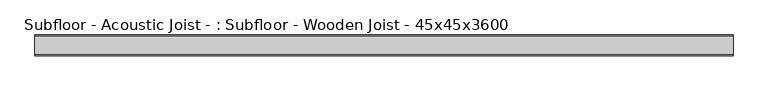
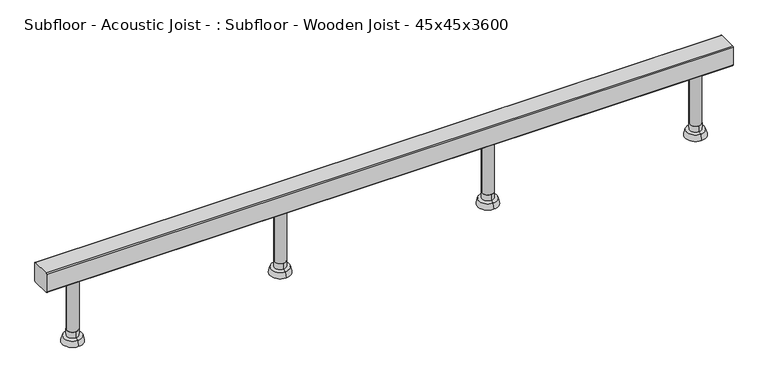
"""IFC4 building model written with IfcOpenShell, lengths in millimetres: beam geometry, Subfloor - Acoustic Joist - : Subfloor - Wooden Joist - 45x45x3600."""

from ifc_helpers import new_model, si_unit, point, frame, frame_2d, origin, place, context, project, spatial, polyline, circle_curve, trimmed, segment, composite_curve, outline, extrude, source, transform, mapped, element, save
from ifc_brep_helpers import plane_surface, cylinder_surface, revolved_surface, advanced_brep


def subfloor_acoustic_joist_subfloor_wooden_joist_45x45x3600_03734fa0(model_context):
    return source(origin(), model_context, "Body", "SolidModel", [
        extrude(outline(composite_curve([segment(trimmed(circle_curve(frame_2d((229.1666667, 0.0)), 12.5043167), [point((216.6623499, 0.0))], [point((241.6709834, 0.0))], False, "CARTESIAN"), True, "CONTINUOUS"), segment(trimmed(circle_curve(frame_2d((229.1666667, 0.0)), 12.5043167), [point((241.6709834, 0.0))], [point((216.6623499, 0.0))], False, "CARTESIAN"), True, "CONTINUOUS")], self_intersect=False)), frame((0.0, 0.0, -143.9999995), z_axis=(0.0, 0.0, 1.0), x_axis=(1.0, 0.0, 0.0)), (0.0, 0.0, 1.0), 121.4999995),
        advanced_brep(
        [(229.1666667, 0.0, -172.5), (229.1666667, -22.5, -172.5), (229.1666667, 22.5, -172.5), (229.1666667, 12.5043167, -143.9999995), (229.1666667, -12.5043167, -143.9999995), (229.1666667, 0.0, -143.9999995), (229.1666667, 19.5414562, -159.856555), (229.1666667, -19.5414562, -159.856555), (229.1666667, -12.5043167, -158.5618465), (229.1666667, 12.5043167, -158.5618465)],
        [
            (0, 1),
            (1, 2, circle_curve(frame((229.1666667, 0.0, -172.5), z_axis=(0.0, 0.0, -1.0), x_axis=(0.0, -1.0, 0.0)), 22.5)),
            (2, 0),
            (2, 1, circle_curve(frame((229.1666667, 0.0, -172.5), z_axis=(0.0, 0.0, -1.0), x_axis=(0.0, -1.0, 0.0)), 22.5)),
            (3, 4, circle_curve(frame((229.1666667, 0.0, -143.9999995), z_axis=(0.0, 0.0, 1.0), x_axis=(0.0, -1.0, 0.0)), 12.5043167)),
            (4, 5),
            (5, 3),
            (4, 3, circle_curve(frame((229.1666667, 0.0, -143.9999995), z_axis=(0.0, 0.0, 1.0), x_axis=(0.0, -1.0, 0.0)), 12.5043167)),
            (6, 7, circle_curve(frame((229.1666667, 0.0, -159.856555), z_axis=(0.0, 0.0, 1.0), x_axis=(0.0, -1.0, 0.0)), 19.5414562)),
            (7, 8),
            (8, 9, circle_curve(frame((229.1666667, 0.0, -158.5618465), z_axis=(0.0, 0.0, -1.0), x_axis=(0.0, -1.0, 0.0)), 12.5043167)),
            (9, 6),
            (7, 6, circle_curve(frame((229.1666667, 0.0, -159.856555), z_axis=(0.0, 0.0, 1.0), x_axis=(0.0, -1.0, 0.0)), 19.5414562)),
            (9, 8, circle_curve(frame((229.1666667, 0.0, -158.5618465), z_axis=(0.0, 0.0, -1.0), x_axis=(0.0, -1.0, 0.0)), 12.5043167)),
            (8, 4),
            (3, 9),
            (1, 7),
            (6, 2),
        ],
        [
            plane_surface(frame((229.1666667, 0.0, -172.5), z_axis=(0.0, 0.0, -1.0), x_axis=(0.0, -1.0, 0.0))),
            plane_surface(frame((229.1666667, 0.0, -143.9999995), z_axis=(0.0, 0.0, 1.0), x_axis=(0.0, -1.0, 0.0))),
            revolved_surface(polyline([(229.1666667, -12.5043167, -158.5618465), (229.1666667, -19.5414562, -159.856555)]), (229.1666667, 0.0, -178.1427452), (0.0, 0.0, -1.0)),
            cylinder_surface(frame((229.1666667, 0.0, -178.1427452), z_axis=(0.0, 0.0, -1.0), x_axis=(0.0, -1.0, 0.0)), 12.5043167),
            revolved_surface(polyline([(229.1666667, -19.5414562, -159.856555), (229.1666667, -22.5, -172.5)]), (229.1666667, 0.0, -178.1427452), (0.0, 0.0, -1.0)),
        ],
        [
            (0, [[1, 2, 3]]),
            (0, [[-3, 4, -1]]),
            (1, [[5, 6, 7]]),
            (1, [[8, -7, -6]]),
            (2, [[9, 10, 11, 12]]),
            (2, [[13, -12, 14, -10]]),
            (3, [[-11, 15, -5, 16]]),
            (3, [[-14, -16, -8, -15]]),
            (4, [[-2, 17, -9, 18]]),
            (4, [[-4, -18, -13, -17]]),
        ],
    ),
        extrude(outline(composite_curve([segment(trimmed(circle_curve(frame_2d((-229.1666667, 0.0)), 12.5043167), [point((-241.6709834, 0.0))], [point((-216.6623499, 0.0))], False, "CARTESIAN"), True, "CONTINUOUS"), segment(trimmed(circle_curve(frame_2d((-229.1666667, 0.0)), 12.5043167), [point((-216.6623499, 0.0))], [point((-241.6709834, 0.0))], False, "CARTESIAN"), True, "CONTINUOUS")], self_intersect=False)), frame((0.0, 0.0, -143.9999995), z_axis=(0.0, 0.0, 1.0), x_axis=(1.0, 0.0, 0.0)), (0.0, 0.0, 1.0), 121.4999995),
        advanced_brep(
        [(-229.1666667, 0.0, -172.5), (-229.1666667, -22.5, -172.5), (-229.1666667, 22.5, -172.5), (-229.1666667, 12.5043167, -143.9999995), (-229.1666667, -12.5043167, -143.9999995), (-229.1666667, 0.0, -143.9999995), (-229.1666667, 19.5414562, -159.856555), (-229.1666667, -19.5414562, -159.856555), (-229.1666667, -12.5043167, -158.5618465), (-229.1666667, 12.5043167, -158.5618465)],
        [
            (0, 1),
            (1, 2, circle_curve(frame((-229.1666667, 0.0, -172.5), z_axis=(0.0, 0.0, -1.0), x_axis=(0.0, -1.0, 0.0)), 22.5)),
            (2, 0),
            (2, 1, circle_curve(frame((-229.1666667, 0.0, -172.5), z_axis=(0.0, 0.0, -1.0), x_axis=(0.0, -1.0, 0.0)), 22.5)),
            (3, 4, circle_curve(frame((-229.1666667, 0.0, -143.9999995), z_axis=(0.0, 0.0, 1.0), x_axis=(0.0, -1.0, 0.0)), 12.5043167)),
            (4, 5),
            (5, 3),
            (4, 3, circle_curve(frame((-229.1666667, 0.0, -143.9999995), z_axis=(0.0, 0.0, 1.0), x_axis=(0.0, -1.0, 0.0)), 12.5043167)),
            (6, 7, circle_curve(frame((-229.1666667, 0.0, -159.856555), z_axis=(0.0, 0.0, 1.0), x_axis=(0.0, -1.0, 0.0)), 19.5414562)),
            (7, 8),
            (8, 9, circle_curve(frame((-229.1666667, 0.0, -158.5618465), z_axis=(0.0, 0.0, -1.0), x_axis=(0.0, -1.0, 0.0)), 12.5043167)),
            (9, 6),
            (7, 6, circle_curve(frame((-229.1666667, 0.0, -159.856555), z_axis=(0.0, 0.0, 1.0), x_axis=(0.0, -1.0, 0.0)), 19.5414562)),
            (9, 8, circle_curve(frame((-229.1666667, 0.0, -158.5618465), z_axis=(0.0, 0.0, -1.0), x_axis=(0.0, -1.0, 0.0)), 12.5043167)),
            (8, 4),
            (3, 9),
            (1, 7),
            (6, 2),
        ],
        [
            plane_surface(frame((-229.1666667, 0.0, -172.5), z_axis=(0.0, 0.0, -1.0), x_axis=(0.0, -1.0, 0.0))),
            plane_surface(frame((-229.1666667, 0.0, -143.9999995), z_axis=(0.0, 0.0, 1.0), x_axis=(0.0, -1.0, 0.0))),
            revolved_surface(polyline([(-229.1666667, -12.5043167, -158.5618465), (-229.1666667, -19.5414562, -159.856555)]), (-229.1666667, 0.0, -178.1427452), (0.0, 0.0, -1.0)),
            cylinder_surface(frame((-229.1666667, 0.0, -178.1427452), z_axis=(0.0, 0.0, -1.0), x_axis=(0.0, -1.0, 0.0)), 12.5043167),
            revolved_surface(polyline([(-229.1666667, -19.5414562, -159.856555), (-229.1666667, -22.5, -172.5)]), (-229.1666667, 0.0, -178.1427452), (0.0, 0.0, -1.0)),
        ],
        [
            (0, [[1, 2, 3]]),
            (0, [[-3, 4, -1]]),
            (1, [[5, 6, 7]]),
            (1, [[8, -7, -6]]),
            (2, [[9, 10, 11, 12]]),
            (2, [[13, -12, 14, -10]]),
            (3, [[-11, 15, -5, 16]]),
            (3, [[-14, -16, -8, -15]]),
            (4, [[-2, 17, -9, 18]]),
            (4, [[-4, -18, -13, -17]]),
        ],
    ),
        extrude(outline(composite_curve([segment(trimmed(circle_curve(frame_2d((687.5, 0.0)), 12.5043167), [point((674.9956833, 0.0))], [point((700.0043167, 0.0))], False, "CARTESIAN"), True, "CONTINUOUS"), segment(trimmed(circle_curve(frame_2d((687.5, 0.0)), 12.5043167), [point((700.0043167, 0.0))], [point((674.9956833, 0.0))], False, "CARTESIAN"), True, "CONTINUOUS")], self_intersect=False)), frame((0.0, 0.0, -143.9999995), z_axis=(0.0, 0.0, 1.0), x_axis=(1.0, 0.0, 0.0)), (0.0, 0.0, 1.0), 121.4999995),
        advanced_brep(
        [(687.5, 0.0, -172.5), (687.5, -22.5, -172.5), (687.5, 22.5, -172.5), (687.5, 12.5043167, -143.9999995), (687.5, -12.5043167, -143.9999995), (687.5, 0.0, -143.9999995), (687.5, 19.5414562, -159.856555), (687.5, -19.5414562, -159.856555), (687.5, -12.5043167, -158.5618465), (687.5, 12.5043167, -158.5618465)],
        [
            (0, 1),
            (1, 2, circle_curve(frame((687.5, 0.0, -172.5), z_axis=(0.0, 0.0, -1.0), x_axis=(0.0, -1.0, 0.0)), 22.5)),
            (2, 0),
            (2, 1, circle_curve(frame((687.5, 0.0, -172.5), z_axis=(0.0, 0.0, -1.0), x_axis=(0.0, -1.0, 0.0)), 22.5)),
            (3, 4, circle_curve(frame((687.5, 0.0, -143.9999995), z_axis=(0.0, 0.0, 1.0), x_axis=(0.0, -1.0, 0.0)), 12.5043167)),
            (4, 5),
            (5, 3),
            (4, 3, circle_curve(frame((687.5, 0.0, -143.9999995), z_axis=(0.0, 0.0, 1.0), x_axis=(0.0, -1.0, 0.0)), 12.5043167)),
            (6, 7, circle_curve(frame((687.5, 0.0, -159.856555), z_axis=(0.0, 0.0, 1.0), x_axis=(0.0, -1.0, 0.0)), 19.5414562)),
            (7, 8),
            (8, 9, circle_curve(frame((687.5, 0.0, -158.5618465), z_axis=(0.0, 0.0, -1.0), x_axis=(0.0, -1.0, 0.0)), 12.5043167)),
            (9, 6),
            (7, 6, circle_curve(frame((687.5, 0.0, -159.856555), z_axis=(0.0, 0.0, 1.0), x_axis=(0.0, -1.0, 0.0)), 19.5414562)),
            (9, 8, circle_curve(frame((687.5, 0.0, -158.5618465), z_axis=(0.0, 0.0, -1.0), x_axis=(0.0, -1.0, 0.0)), 12.5043167)),
            (8, 4),
            (3, 9),
            (1, 7),
            (6, 2),
        ],
        [
            plane_surface(frame((687.5, 0.0, -172.5), z_axis=(0.0, 0.0, -1.0), x_axis=(0.0, -1.0, 0.0))),
            plane_surface(frame((687.5, 0.0, -143.9999995), z_axis=(0.0, 0.0, 1.0), x_axis=(0.0, -1.0, 0.0))),
            revolved_surface(polyline([(687.5, -12.5043167, -158.5618465), (687.5, -19.5414562, -159.856555)]), (687.5, 0.0, -178.1427452), (0.0, 0.0, -1.0)),
            cylinder_surface(frame((687.5, 0.0, -178.1427452), z_axis=(0.0, 0.0, -1.0), x_axis=(0.0, -1.0, 0.0)), 12.5043167),
            revolved_surface(polyline([(687.5, -19.5414562, -159.856555), (687.5, -22.5, -172.5)]), (687.5, 0.0, -178.1427452), (0.0, 0.0, -1.0)),
        ],
        [
            (0, [[1, 2, 3]]),
            (0, [[-3, 4, -1]]),
            (1, [[5, 6, 7]]),
            (1, [[8, -7, -6]]),
            (2, [[9, 10, 11, 12]]),
            (2, [[13, -12, 14, -10]]),
            (3, [[-11, 15, -5, 16]]),
            (3, [[-14, -16, -8, -15]]),
            (4, [[-2, 17, -9, 18]]),
            (4, [[-4, -18, -13, -17]]),
        ],
    ),
        extrude(outline(composite_curve([segment(trimmed(circle_curve(frame_2d((-687.5, 0.0)), 12.5043167), [point((-700.0043167, 0.0))], [point((-674.9956833, 0.0))], False, "CARTESIAN"), True, "CONTINUOUS"), segment(trimmed(circle_curve(frame_2d((-687.5, 0.0)), 12.5043167), [point((-674.9956833, 0.0))], [point((-700.0043167, 0.0))], False, "CARTESIAN"), True, "CONTINUOUS")], self_intersect=False)), frame((0.0, 0.0, -143.9999995), z_axis=(0.0, 0.0, 1.0), x_axis=(1.0, 0.0, 0.0)), (0.0, 0.0, 1.0), 121.4999995),
        advanced_brep(
        [(-687.5, 0.0, -172.5), (-687.5, -22.5, -172.5), (-687.5, 22.5, -172.5), (-687.5, 12.5043167, -143.9999995), (-687.5, -12.5043167, -143.9999995), (-687.5, 0.0, -143.9999995), (-687.5, 19.5414562, -159.856555), (-687.5, -19.5414562, -159.856555), (-687.5, -12.5043167, -158.5618465), (-687.5, 12.5043167, -158.5618465)],
        [
            (0, 1),
            (1, 2, circle_curve(frame((-687.5, 0.0, -172.5), z_axis=(0.0, 0.0, -1.0), x_axis=(0.0, -1.0, 0.0)), 22.5)),
            (2, 0),
            (2, 1, circle_curve(frame((-687.5, 0.0, -172.5), z_axis=(0.0, 0.0, -1.0), x_axis=(0.0, -1.0, 0.0)), 22.5)),
            (3, 4, circle_curve(frame((-687.5, 0.0, -143.9999995), z_axis=(0.0, 0.0, 1.0), x_axis=(0.0, -1.0, 0.0)), 12.5043167)),
            (4, 5),
            (5, 3),
            (4, 3, circle_curve(frame((-687.5, 0.0, -143.9999995), z_axis=(0.0, 0.0, 1.0), x_axis=(0.0, -1.0, 0.0)), 12.5043167)),
            (6, 7, circle_curve(frame((-687.5, 0.0, -159.856555), z_axis=(0.0, 0.0, 1.0), x_axis=(0.0, -1.0, 0.0)), 19.5414562)),
            (7, 8),
            (8, 9, circle_curve(frame((-687.5, 0.0, -158.5618465), z_axis=(0.0, 0.0, -1.0), x_axis=(0.0, -1.0, 0.0)), 12.5043167)),
            (9, 6),
            (7, 6, circle_curve(frame((-687.5, 0.0, -159.856555), z_axis=(0.0, 0.0, 1.0), x_axis=(0.0, -1.0, 0.0)), 19.5414562)),
            (9, 8, circle_curve(frame((-687.5, 0.0, -158.5618465), z_axis=(0.0, 0.0, -1.0), x_axis=(0.0, -1.0, 0.0)), 12.5043167)),
            (8, 4),
            (3, 9),
            (1, 7),
            (6, 2),
        ],
        [
            plane_surface(frame((-687.5, 0.0, -172.5), z_axis=(0.0, 0.0, -1.0), x_axis=(0.0, -1.0, 0.0))),
            plane_surface(frame((-687.5, 0.0, -143.9999995), z_axis=(0.0, 0.0, 1.0), x_axis=(0.0, -1.0, 0.0))),
            revolved_surface(polyline([(-687.5, -12.5043167, -158.5618465), (-687.5, -19.5414562, -159.856555)]), (-687.5, 0.0, -178.1427452), (0.0, 0.0, -1.0)),
            cylinder_surface(frame((-687.5, 0.0, -178.1427452), z_axis=(0.0, 0.0, -1.0), x_axis=(0.0, -1.0, 0.0)), 12.5043167),
            revolved_surface(polyline([(-687.5, -19.5414562, -159.856555), (-687.5, -22.5, -172.5)]), (-687.5, 0.0, -178.1427452), (0.0, 0.0, -1.0)),
        ],
        [
            (0, [[1, 2, 3]]),
            (0, [[-3, 4, -1]]),
            (1, [[5, 6, 7]]),
            (1, [[8, -7, -6]]),
            (2, [[9, 10, 11, 12]]),
            (2, [[13, -12, 14, -10]]),
            (3, [[-11, 15, -5, 16]]),
            (3, [[-14, -16, -8, -15]]),
            (4, [[-2, 17, -9, 18]]),
            (4, [[-4, -18, -13, -17]]),
        ],
    ),
        extrude(outline(composite_curve([segment(polyline([(-20.5, 22.5), (20.5, 22.5)]), True, "CONTINUOUS"), segment(trimmed(circle_curve(frame_2d((20.5, 20.5)), 2.0), [point((20.5, 22.5))], [point((22.5, 20.5))], False, "CARTESIAN"), True, "CONTINUOUS"), segment(polyline([(22.5, 20.5), (22.5, -20.5)]), True, "CONTINUOUS"), segment(trimmed(circle_curve(frame_2d((20.5, -20.5)), 2.0), [point((22.5, -20.5))], [point((20.5, -22.5))], False, "CARTESIAN"), True, "CONTINUOUS"), segment(polyline([(20.5, -22.5), (-20.5, -22.5)]), True, "CONTINUOUS"), segment(trimmed(circle_curve(frame_2d((-20.5, -20.5)), 2.0), [point((-20.5, -22.5))], [point((-22.5, -20.5))], False, "CARTESIAN"), True, "CONTINUOUS"), segment(polyline([(-22.5, -20.5), (-22.5, 20.5)]), True, "CONTINUOUS"), segment(trimmed(circle_curve(frame_2d((-20.5, 20.5)), 2.0), [point((-22.5, 20.5))], [point((-20.5, 22.5))], False, "CARTESIAN"), True, "CONTINUOUS")], self_intersect=False)), frame((-757.5, 0.0, 0.0), z_axis=(1.0, 0.0, 0.0), x_axis=(0.0, 1.0, 0.0)), (0.0, 0.0, 1.0), 1515.0),
    ])


if __name__ == "__main__":
    model = new_model("IFC4")
    model_context = context("Model", 3, world=origin())
    ifc_project = project(units=[si_unit("LENGTHUNIT", "METRE", prefix="MILLI")], contexts=[model_context])
    site = spatial("IfcSite", under=ifc_project)
    building = spatial("IfcBuilding", under=site)
    placement = place(None, origin())
    subfloor_acoustic_joist_subfloor_wooden_joist_45x45x3600_shape = subfloor_acoustic_joist_subfloor_wooden_joist_45x45x3600_03734fa0(model_context)
    element("IfcBeam", 1, ObjectType="Subfloor - Acoustic Joist - : Subfloor - Wooden Joist - 45x45x3600", at=placement, inside=building, context=model_context, shape_type="MappedRepresentation", body=[
        mapped(subfloor_acoustic_joist_subfloor_wooden_joist_45x45x3600_shape, transform((0.0, 0.0, 0.0), x_axis=(1.0, 0.0, 0.0), y_axis=(0.0, 1.0, 0.0), z_axis=(0.0, 0.0, 1.0))),
    ])
    save(model, "model.ifc")
